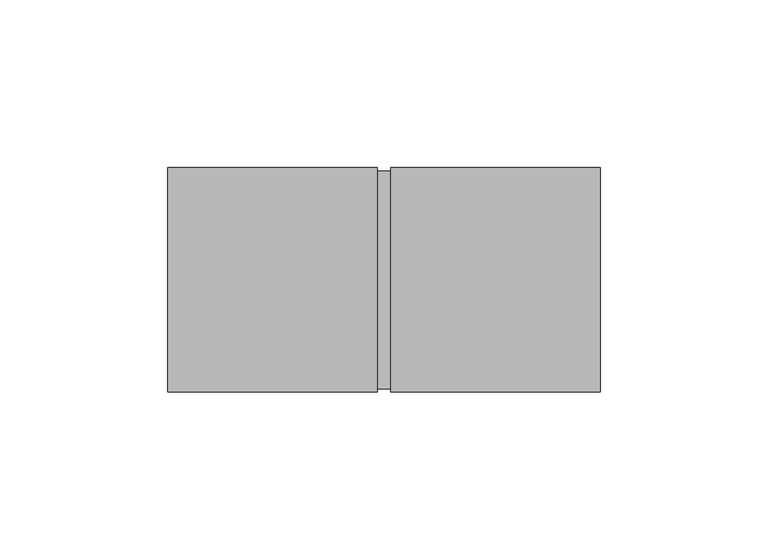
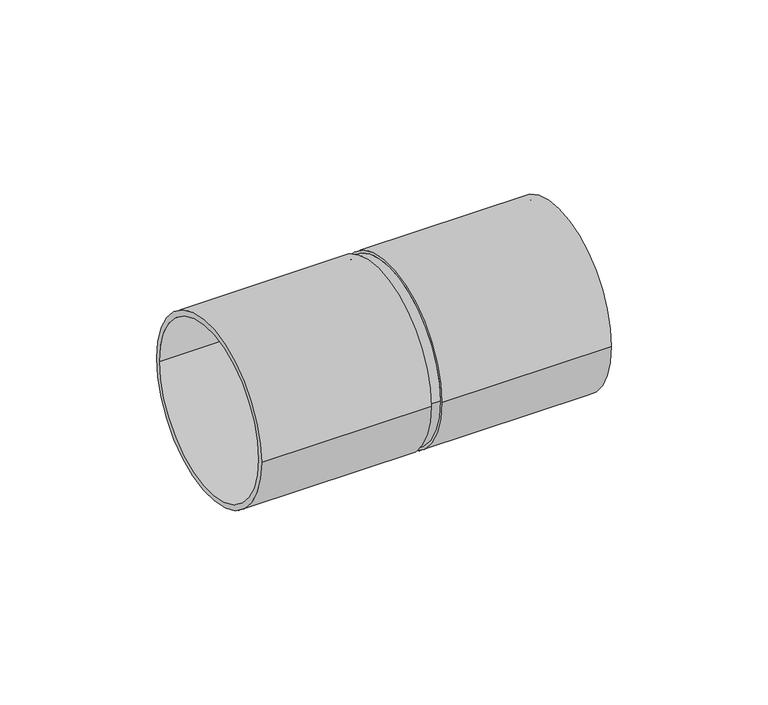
"""IFC4 building model written with IfcOpenShell, lengths in millimetres: cable carrier fitting geometry."""

from ifc_helpers import new_model, si_unit, frame, origin, place, context, project, spatial, polyline, circle_curve, source, transform, mapped, element, save
from ifc_brep_helpers import plane_surface, cylinder_surface, revolved_surface, advanced_brep


def cable_carrier_fitting_d0d8130a(model_context):
    return source(origin(), model_context, "Body", "AdvancedBrep", [
        advanced_brep(
        [(-64.5, -33.5, 0.0), (-64.5, 33.5, 0.0), (-64.5, -31.5, 0.0), (-64.5, 31.5, 0.0), (-2.0, -33.5, 0.0), (-2.0, 33.5, 0.0), (-2.0, -32.5, 0.0), (-2.0, 32.5, 0.0), (-2.0, 31.5, 0.0), (-2.0, -31.5, 0.0), (2.0, -31.5, 0.0), (2.0, 31.5, 0.0), (2.0, -32.5, 0.0), (2.0, 32.5, 0.0), (2.0, -33.5, 0.0), (2.0, 33.5, 0.0), (64.5, -33.5, 0.0), (64.5, 33.5, 0.0), (64.5, -31.5, 0.0), (64.5, 31.5, 0.0)],
        [
            (0, 1, circle_curve(frame((-64.5, 0.0, 0.0), z_axis=(-1.0, 0.0, 0.0), x_axis=(0.0, 1.0, 0.0)), 33.5)),
            (1, 0, circle_curve(frame((-64.5, 0.0, 0.0), z_axis=(-1.0, 0.0, 0.0), x_axis=(0.0, 1.0, 0.0)), 33.5)),
            (2, 3, circle_curve(frame((-64.5, 0.0, 0.0), z_axis=(1.0, 0.0, 0.0), x_axis=(0.0, 1.0, 0.0)), 31.5)),
            (3, 2, circle_curve(frame((-64.5, 0.0, 0.0), z_axis=(1.0, 0.0, 0.0), x_axis=(0.0, 1.0, 0.0)), 31.5)),
            (4, 5, circle_curve(frame((-2.0, 0.0, 0.0), z_axis=(1.0, 0.0, 0.0), x_axis=(0.0, 1.0, 0.0)), 33.5)),
            (5, 4, circle_curve(frame((-2.0, 0.0, 0.0), z_axis=(1.0, 0.0, 0.0), x_axis=(0.0, 1.0, 0.0)), 33.5)),
            (6, 7, circle_curve(frame((-2.0, 0.0, 0.0), z_axis=(-1.0, 0.0, 0.0), x_axis=(0.0, 1.0, 0.0)), 32.5)),
            (7, 6, circle_curve(frame((-2.0, 0.0, 0.0), z_axis=(-1.0, 0.0, 0.0), x_axis=(0.0, 1.0, 0.0)), 32.5)),
            (3, 8),
            (8, 9, circle_curve(frame((-2.0, 0.0, 0.0), z_axis=(1.0, 0.0, 0.0), x_axis=(0.0, 1.0, 0.0)), 31.5)),
            (9, 2),
            (9, 8, circle_curve(frame((-2.0, 0.0, 0.0), z_axis=(1.0, 0.0, 0.0), x_axis=(0.0, 1.0, 0.0)), 31.5)),
            (1, 5),
            (4, 0),
            (9, 10),
            (10, 11, circle_curve(frame((2.0, 0.0, 0.0), z_axis=(1.0, 0.0, 0.0), x_axis=(0.0, 1.0, 0.0)), 31.5)),
            (11, 8),
            (11, 10, circle_curve(frame((2.0, 0.0, 0.0), z_axis=(1.0, 0.0, 0.0), x_axis=(0.0, 1.0, 0.0)), 31.5)),
            (6, 12),
            (12, 13, circle_curve(frame((2.0, 0.0, 0.0), z_axis=(-1.0, 0.0, 0.0), x_axis=(0.0, 1.0, 0.0)), 32.5)),
            (13, 7),
            (13, 12, circle_curve(frame((2.0, 0.0, 0.0), z_axis=(-1.0, 0.0, 0.0), x_axis=(0.0, 1.0, 0.0)), 32.5)),
            (14, 15, circle_curve(frame((2.0, 0.0, 0.0), z_axis=(-1.0, 0.0, 0.0), x_axis=(0.0, 1.0, 0.0)), 33.5)),
            (15, 14, circle_curve(frame((2.0, 0.0, 0.0), z_axis=(-1.0, 0.0, 0.0), x_axis=(0.0, 1.0, 0.0)), 33.5)),
            (16, 17, circle_curve(frame((64.5, 0.0, 0.0), z_axis=(1.0, 0.0, 0.0), x_axis=(0.0, 1.0, 0.0)), 33.5)),
            (17, 16, circle_curve(frame((64.5, 0.0, 0.0), z_axis=(1.0, 0.0, 0.0), x_axis=(0.0, 1.0, 0.0)), 33.5)),
            (18, 19, circle_curve(frame((64.5, 0.0, 0.0), z_axis=(-1.0, 0.0, 0.0), x_axis=(0.0, 1.0, 0.0)), 31.5)),
            (19, 18, circle_curve(frame((64.5, 0.0, 0.0), z_axis=(-1.0, 0.0, 0.0), x_axis=(0.0, 1.0, 0.0)), 31.5)),
            (14, 16),
            (17, 15),
            (19, 11),
            (10, 18),
        ],
        [
            plane_surface(frame((-64.5, 0.0, 0.0), z_axis=(-1.0, 0.0, 0.0), x_axis=(0.0, 0.0, 1.0))),
            plane_surface(frame((-2.0, 0.0, 0.0), z_axis=(1.0, 0.0, 0.0), x_axis=(0.0, 0.0, 1.0))),
            revolved_surface(polyline([(-2.0, 31.5, 0.0), (-64.5, 31.5, 0.0)]), (-64.5, 0.0, 0.0), (1.0, 0.0, 0.0)),
            cylinder_surface(frame((-64.5, 0.0, 0.0), z_axis=(-1.0, 0.0, 0.0), x_axis=(0.0, 1.0, 0.0)), 33.5),
            revolved_surface(polyline([(2.0, 31.5, 0.0), (-2.0, 31.5, 0.0)]), (-2.0, 0.0, 0.0), (1.0, 0.0, 0.0)),
            cylinder_surface(frame((-2.0, 0.0, 0.0), z_axis=(-1.0, 0.0, 0.0), x_axis=(0.0, 1.0, 0.0)), 32.5),
            plane_surface(frame((2.0, 0.0, 0.0), z_axis=(-1.0, 0.0, 0.0), x_axis=(0.0, 0.0, 1.0))),
            plane_surface(frame((64.5, 0.0, 0.0), z_axis=(1.0, 0.0, 0.0), x_axis=(0.0, 0.0, 1.0))),
            cylinder_surface(frame((2.0, 0.0, 0.0), z_axis=(-1.0, 0.0, 0.0), x_axis=(0.0, 1.0, 0.0)), 33.5),
            revolved_surface(polyline([(64.5, 31.5, 0.0), (2.0, 31.5, 0.0)]), (2.0, 0.0, 0.0), (1.0, 0.0, 0.0)),
        ],
        [
            (0, [[1, 2], [3, 4]]),
            (1, [[5, 6], [7, 8]]),
            (2, [[-4, 9, 10, 11]]),
            (2, [[-3, -11, 12, -9]]),
            (3, [[-2, 13, -5, 14]]),
            (3, [[-1, -14, -6, -13]]),
            (4, [[15, 16, 17, -12]]),
            (4, [[-15, -10, -17, 18]]),
            (5, [[19, 20, 21, -7]]),
            (5, [[-19, -8, -21, 22]]),
            (6, [[23, 24], [-20, -22]]),
            (7, [[25, 26], [27, 28]]),
            (8, [[-23, 29, -26, 30]]),
            (8, [[-24, -30, -25, -29]]),
            (9, [[-28, 31, -16, 32]]),
            (9, [[-27, -32, -18, -31]]),
        ],
    ),
    ])


if __name__ == "__main__":
    model = new_model("IFC4")
    model_context = context("Model", 3, world=origin())
    ifc_project = project(units=[si_unit("LENGTHUNIT", "METRE", prefix="MILLI")], contexts=[model_context])
    site = spatial("IfcSite", under=ifc_project)
    building = spatial("IfcBuilding", under=site)
    placement = place(None, origin())
    cable_carrier_fitting_shape = cable_carrier_fitting_d0d8130a(model_context)
    element("IfcCableCarrierFitting", 1, at=placement, inside=building, context=model_context, shape_type="MappedRepresentation", body=[
        mapped(cable_carrier_fitting_shape, transform((0.0, 0.0, 0.0), x_axis=(1.0, 0.0, 0.0), y_axis=(0.0, 1.0, 0.0), z_axis=(0.0, 0.0, 1.0))),
    ])
    save(model, "model.ifc")
